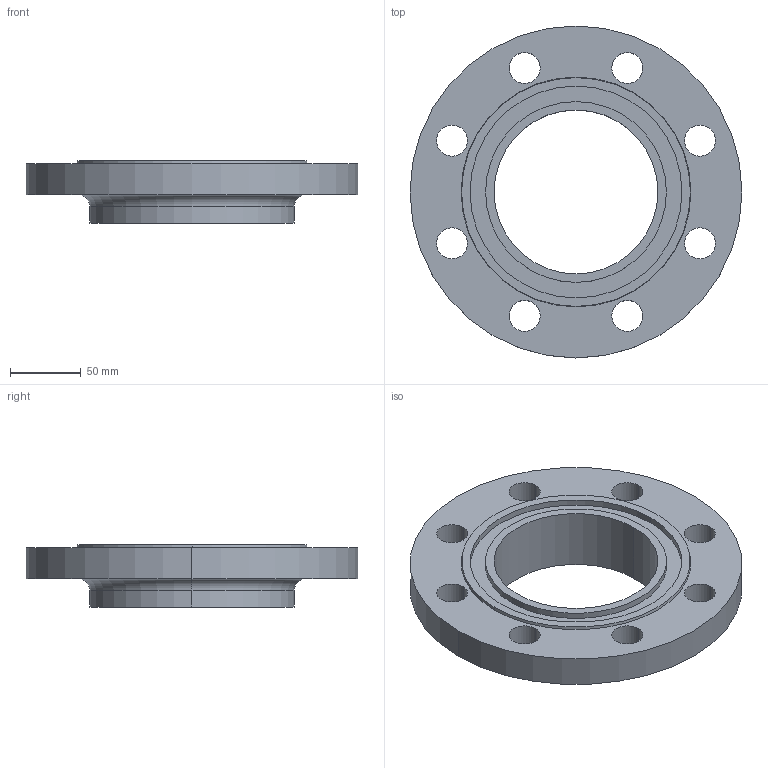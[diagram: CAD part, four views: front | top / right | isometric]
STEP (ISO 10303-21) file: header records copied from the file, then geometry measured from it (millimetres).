
FILE_DESCRIPTION (( 'STEP AP214' ), '1' );
FILE_NAME ('PN40 DN100 Type 12 - Type D Face.STEP', '2019-01-02T00:21:18', ( '' ), ( '' ), 'SwSTEP 2.0', 'SolidWorks 2019', '' );
FILE_SCHEMA (( 'AUTOMOTIVE_DESIGN' ));
Length unit declared in the file: millimetre
Products named in the file (1): PN40 DN100 Type 12 - Type D Face
Bounding box: 235 x 235 x 44 mm (x, y, z)
Volume: 778768.8 mm3; surface area: 116330.5 mm2
Topology: 1 solids, 1 shells, 36 faces, 88 edges, 58 vertices
Faces by surface type: cylinder 26, plane 6, torus 2, cone 2
Entity records: 1166 total; most frequent: DIRECTION 222, CARTESIAN_POINT 183, ORIENTED_EDGE 176, AXIS2_PLACEMENT_3D 97, EDGE_CURVE 88, CIRCLE 60, VERTEX_POINT 58, EDGE_LOOP 58
